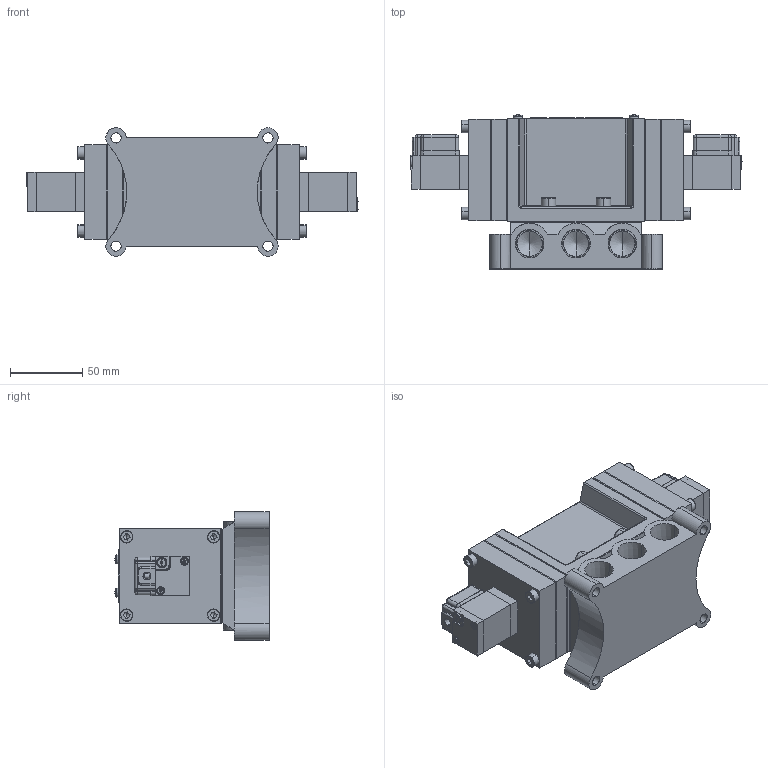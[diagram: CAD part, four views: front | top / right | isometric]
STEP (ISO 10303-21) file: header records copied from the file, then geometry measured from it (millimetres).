
FILE_DESCRIPTION (( 'STEP AP203' ), '1' );
FILE_NAME ('PMD(E)3410#-04-#G#.STEP', '2016-03-09T05:49:57', ( 'Sam Lin' ), ( '' ), 'SwSTEP 2.0', 'SolidWorks 2013', '' );
FILE_SCHEMA (( 'CONFIG_CONTROL_DESIGN' ));
Length unit declared in the file: metre
Products named in the file (18): PMS2410-6(04); PMS2410-3; PMD3410-1; PMS2410-4; PM06-C1; ISO 4762 M5 x 20; PM06-C4; PM06-C3-M4; PM06-C6-M3; ISO 4762 M6 x 20; PM06-C5; PM10-MARK-2410; PM06-G1; PMS2410-7; PMS2410-1; PMD(E)3410#-04-#G#; PMS2410-8; PMS2410-2
Assembly tree (43 placements, depth 2):
  PMD(E)3410#-04-#G#
    PMS2410-1
    PMS2410-2
    PMS2410-3  x4
    PMS2410-4  x2
    ISO 4762 M5 x 20  x8
    PM06-C3-M4  x4
    ISO 4762 M6 x 20  x4
    PM10-MARK-2410
    PMS2410-7
    PMS2410-8  x2
    PMS2410-6(04)
    PMD3410-1  x2
    PM06-C1  x2
    PM06-C4  x2
    PM06-C6-M3  x4
    PM06-C5  x2
    PM06-G1  x2
Bounding box: 229 x 106.35 x 88.61 mm (x, y, z)
Volume: 830304.2 mm3; surface area: 217588.9 mm2
Topology: 49 solids, 49 shells, 1162 faces, 2763 edges, 1703 vertices
Faces by surface type: plane 598, cylinder 278, cone 142, bspline 136, torus 8
Entity records: 21211 total; most frequent: CARTESIAN_POINT 6510, ORIENTED_EDGE 2492, DIRECTION 2473, EDGE_CURVE 1246, AXIS2_PLACEMENT_3D 894, VERTEX_POINT 797, VECTOR 685, LINE 685
